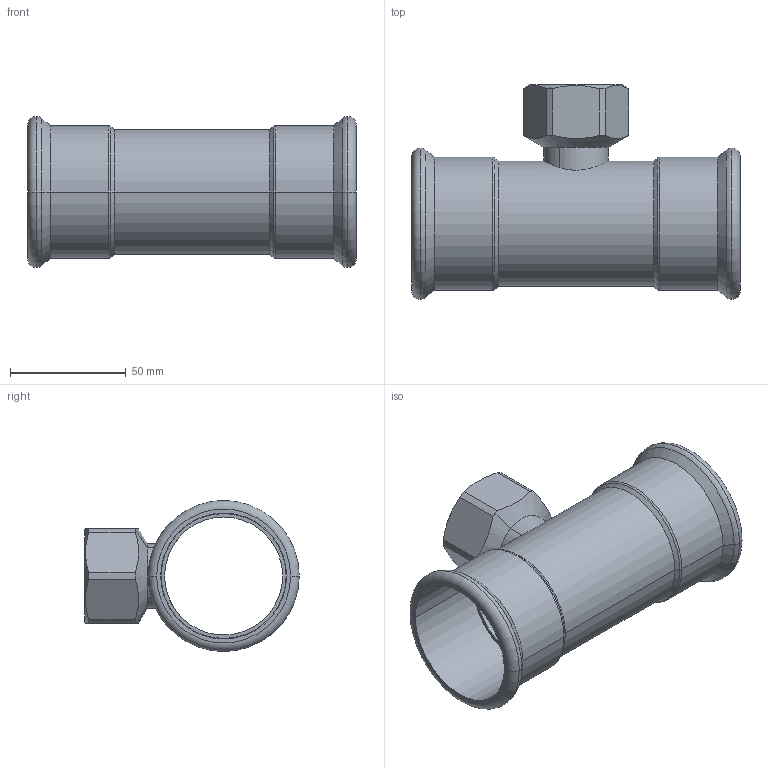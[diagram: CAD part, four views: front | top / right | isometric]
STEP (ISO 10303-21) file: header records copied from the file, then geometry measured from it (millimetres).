
FILE_DESCRIPTION(('CoCreate Modeling STEP Export'),'2;1');
FILE_NAME('C1418 54xRp1x54.stp','2014-11-12T15:06:55',(''),(''),'CoCreate Modeling STEP processor for AP214 (Solid Model)','CoCreate Modeling 17.00A 17-Jun-2010 (C) Parametric Technology GmbH','');
FILE_SCHEMA(('AUTOMOTIVE_DESIGN { 1 0 10303 214 1 1 1 1 }'));
Length unit declared in the file: millimetre
Products named in the file (2): C1418_54xRp1x54
Assembly tree (1 placements, depth 2):
  C1418_54xRp1x54
    C1418_54xRp1x54
Bounding box: 142 x 92.65 x 65.3 mm (x, y, z)
Volume: 61855.3 mm3; surface area: 59733.4 mm2
Topology: 1 solids, 1 shells, 66 faces, 158 edges, 98 vertices
Faces by surface type: cylinder 28, plane 14, cone 12, torus 12
Entity records: 3690 total; most frequent: CARTESIAN_POINT 2295, ORIENTED_EDGE 316, DIRECTION 240, EDGE_CURVE 158, VERTEX_POINT 98, AXIS2_PLACEMENT_3D 97, EDGE_LOOP 74, FACE_OUTER_BOUND 66
